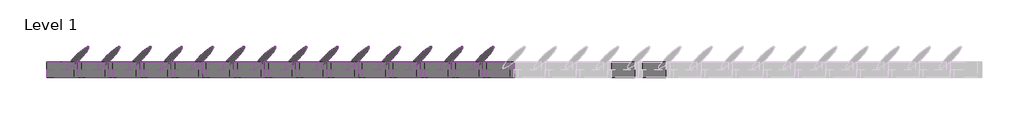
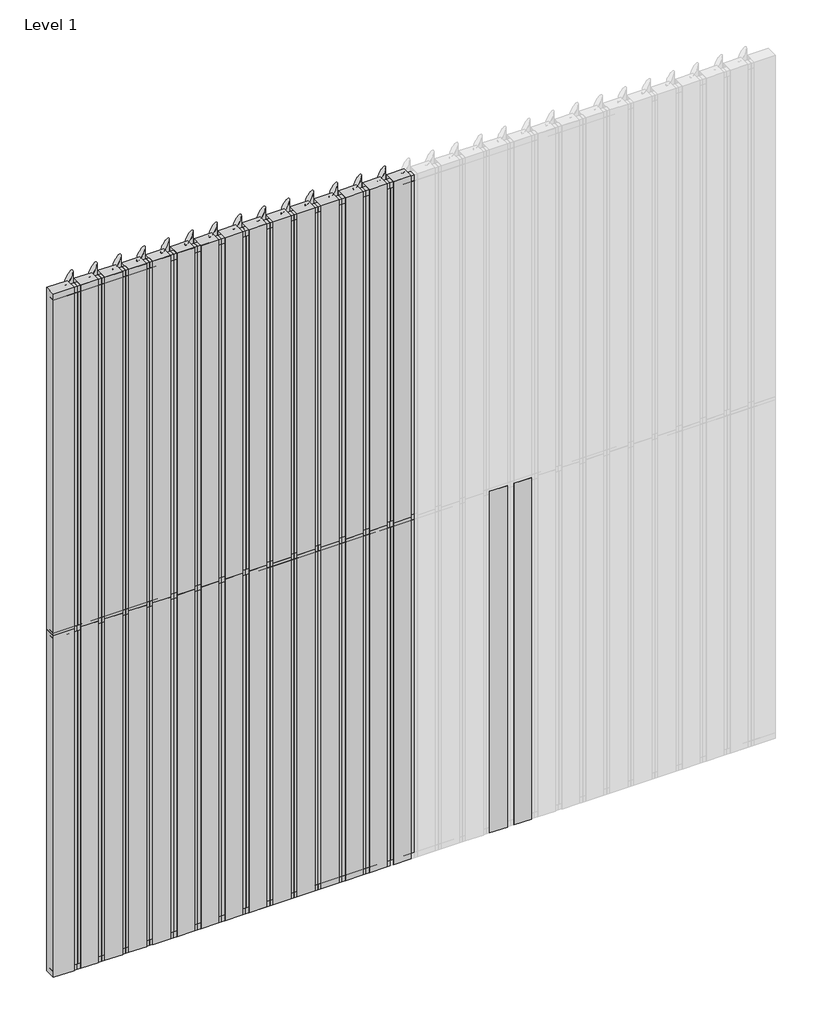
# One storey, part 1 of 2: 72 members, 62 plates.
"""IFC4 building model written with IfcOpenShell, lengths in millimetres."""

from ifc_helpers import new_model, si_unit, origin, place, context, project, spatial, transform, mapped, element, save
from components import rectangular_mullion_0c68277b, rectangular_mullion_a06afc58, rectangular_mullion_614df7cf, rectangular_mullion_7d91d70c, empty_system_panel_empty_aac18751, empty_system_panel_empty_ec074acd, empty_system_panel_empty_763ef950

model = new_model("IFC4")

# Units and contexts
model_context = context("Model", 3, world=origin())
ifc_project = project(units=[si_unit("LENGTHUNIT", "METRE", prefix="MILLI")], contexts=[model_context])

# Site, building, storey
site = spatial("IfcSite", under=ifc_project)
building = spatial("IfcBuilding", under=site)
storey = spatial("IfcBuildingStorey", under=building, Name="Level 1", Elevation=0.0)

# Members
placement = place(None, origin())
rectangular_mullion_shape = rectangular_mullion_0c68277b(model_context)
element("IfcMember", 1, ObjectType="Rectangular Mullion : RSen_21_CWM_blade - 200 ellips - 45°_gen_duco projects", at=placement, inside=storey, context=model_context, shape_type="MappedRepresentation", body=[
    mapped(rectangular_mullion_shape, transform((2800.0, 3000.0, 0.0), x_axis=(-1.0, 0.0, 0.0), y_axis=(0.0, 1.0, 0.0), z_axis=(0.0, 0.0, -1.0))),
])
element("IfcMember", 2, ObjectType="Rectangular Mullion : RSen_21_CWM_blade - 200 ellips - 45°_gen_duco projects", at=placement, inside=storey, context=model_context, shape_type="MappedRepresentation", body=[
    mapped(rectangular_mullion_shape, transform((2600.0, 3000.0, 0.0), x_axis=(-1.0, 0.0, 0.0), y_axis=(0.0, 1.0, 0.0), z_axis=(0.0, 0.0, -1.0))),
])
element("IfcMember", 3, ObjectType="Rectangular Mullion : RSen_21_CWM_blade - 200 ellips - 45°_gen_duco projects", at=placement, inside=storey, context=model_context, shape_type="MappedRepresentation", body=[
    mapped(rectangular_mullion_shape, transform((2400.0, 3000.0, 0.0), x_axis=(-1.0, 0.0, 0.0), y_axis=(0.0, 1.0, 0.0), z_axis=(0.0, 0.0, -1.0))),
])
element("IfcMember", 4, ObjectType="Rectangular Mullion : RSen_21_CWM_blade - 200 ellips - 45°_gen_duco projects", at=placement, inside=storey, context=model_context, shape_type="MappedRepresentation", body=[
    mapped(rectangular_mullion_shape, transform((2200.0, 3000.0, 0.0), x_axis=(-1.0, 0.0, 0.0), y_axis=(0.0, 1.0, 0.0), z_axis=(0.0, 0.0, -1.0))),
])
element("IfcMember", 5, ObjectType="Rectangular Mullion : RSen_21_CWM_blade - 200 ellips - 45°_gen_duco projects", at=placement, inside=storey, context=model_context, shape_type="MappedRepresentation", body=[
    mapped(rectangular_mullion_shape, transform((2000.0, 3000.0, 0.0), x_axis=(-1.0, 0.0, 0.0), y_axis=(0.0, 1.0, 0.0), z_axis=(0.0, 0.0, -1.0))),
])
element("IfcMember", 6, ObjectType="Rectangular Mullion : RSen_21_CWM_blade - 200 ellips - 45°_gen_duco projects", at=placement, inside=storey, context=model_context, shape_type="MappedRepresentation", body=[
    mapped(rectangular_mullion_shape, transform((1800.0, 3000.0, 0.0), x_axis=(-1.0, 0.0, 0.0), y_axis=(0.0, 1.0, 0.0), z_axis=(0.0, 0.0, -1.0))),
])
element("IfcMember", 7, ObjectType="Rectangular Mullion : RSen_21_CWM_blade - 200 ellips - 45°_gen_duco projects", at=placement, inside=storey, context=model_context, shape_type="MappedRepresentation", body=[
    mapped(rectangular_mullion_shape, transform((1600.0, 3000.0, 0.0), x_axis=(-1.0, 0.0, 0.0), y_axis=(0.0, 1.0, 0.0), z_axis=(0.0, 0.0, -1.0))),
])
element("IfcMember", 8, ObjectType="Rectangular Mullion : RSen_21_CWM_blade - 200 ellips - 45°_gen_duco projects", at=placement, inside=storey, context=model_context, shape_type="MappedRepresentation", body=[
    mapped(rectangular_mullion_shape, transform((1400.0, 3000.0, 0.0), x_axis=(-1.0, 0.0, 0.0), y_axis=(0.0, 1.0, 0.0), z_axis=(0.0, 0.0, -1.0))),
])
element("IfcMember", 9, ObjectType="Rectangular Mullion : RSen_21_CWM_blade - 200 ellips - 45°_gen_duco projects", at=placement, inside=storey, context=model_context, shape_type="MappedRepresentation", body=[
    mapped(rectangular_mullion_shape, transform((1200.0, 3000.0, 0.0), x_axis=(-1.0, 0.0, 0.0), y_axis=(0.0, 1.0, 0.0), z_axis=(0.0, 0.0, -1.0))),
])
element("IfcMember", 10, ObjectType="Rectangular Mullion : RSen_21_CWM_blade - 200 ellips - 45°_gen_duco projects", at=placement, inside=storey, context=model_context, shape_type="MappedRepresentation", body=[
    mapped(rectangular_mullion_shape, transform((1000.0, 3000.0, 0.0), x_axis=(-1.0, 0.0, 0.0), y_axis=(0.0, 1.0, 0.0), z_axis=(0.0, 0.0, -1.0))),
])
element("IfcMember", 11, ObjectType="Rectangular Mullion : RSen_21_CWM_blade - 200 ellips - 45°_gen_duco projects", at=placement, inside=storey, context=model_context, shape_type="MappedRepresentation", body=[
    mapped(rectangular_mullion_shape, transform((800.0, 3000.0, 0.0), x_axis=(-1.0, 0.0, 0.0), y_axis=(0.0, 1.0, 0.0), z_axis=(0.0, 0.0, -1.0))),
])
element("IfcMember", 12, ObjectType="Rectangular Mullion : RSen_21_CWM_blade - 200 ellips - 45°_gen_duco projects", at=placement, inside=storey, context=model_context, shape_type="MappedRepresentation", body=[
    mapped(rectangular_mullion_shape, transform((600.0, 3000.0, 0.0), x_axis=(-1.0, 0.0, 0.0), y_axis=(0.0, 1.0, 0.0), z_axis=(0.0, 0.0, -1.0))),
])
element("IfcMember", 13, ObjectType="Rectangular Mullion : RSen_21_CWM_blade - 200 ellips - 45°_gen_duco projects", at=placement, inside=storey, context=model_context, shape_type="MappedRepresentation", body=[
    mapped(rectangular_mullion_shape, transform((400.0, 3000.0, 0.0), x_axis=(-1.0, 0.0, 0.0), y_axis=(0.0, 1.0, 0.0), z_axis=(0.0, 0.0, -1.0))),
])
element("IfcMember", 14, ObjectType="Rectangular Mullion : RSen_21_CWM_blade - 200 ellips - 45°_gen_duco projects", at=placement, inside=storey, context=model_context, shape_type="MappedRepresentation", body=[
    mapped(rectangular_mullion_shape, transform((200.0, 3000.0, 0.0), x_axis=(-1.0, 0.0, 0.0), y_axis=(0.0, 1.0, 0.0), z_axis=(0.0, 0.0, -1.0))),
])
element("IfcMember", 15, ObjectType="Rectangular Mullion : RSen_21_CWM_blade - 200 ellips - 45°_gen_duco projects", at=placement, inside=storey, context=model_context, shape_type="MappedRepresentation", body=[
    mapped(rectangular_mullion_shape, transform((2800.0, 3000.0, 3000.0), x_axis=(-1.0, 0.0, 0.0), y_axis=(0.0, 1.0, 0.0), z_axis=(0.0, 0.0, -1.0))),
])
element("IfcMember", 16, ObjectType="Rectangular Mullion : RSen_21_CWM_blade - 200 ellips - 45°_gen_duco projects", at=placement, inside=storey, context=model_context, shape_type="MappedRepresentation", body=[
    mapped(rectangular_mullion_shape, transform((2600.0, 3000.0, 3000.0), x_axis=(-1.0, 0.0, 0.0), y_axis=(0.0, 1.0, 0.0), z_axis=(0.0, 0.0, -1.0))),
])
element("IfcMember", 17, ObjectType="Rectangular Mullion : RSen_21_CWM_blade - 200 ellips - 45°_gen_duco projects", at=placement, inside=storey, context=model_context, shape_type="MappedRepresentation", body=[
    mapped(rectangular_mullion_shape, transform((2400.0, 3000.0, 3000.0), x_axis=(-1.0, 0.0, 0.0), y_axis=(0.0, 1.0, 0.0), z_axis=(0.0, 0.0, -1.0))),
])
element("IfcMember", 18, ObjectType="Rectangular Mullion : RSen_21_CWM_blade - 200 ellips - 45°_gen_duco projects", at=placement, inside=storey, context=model_context, shape_type="MappedRepresentation", body=[
    mapped(rectangular_mullion_shape, transform((2200.0, 3000.0, 3000.0), x_axis=(-1.0, 0.0, 0.0), y_axis=(0.0, 1.0, 0.0), z_axis=(0.0, 0.0, -1.0))),
])
element("IfcMember", 19, ObjectType="Rectangular Mullion : RSen_21_CWM_blade - 200 ellips - 45°_gen_duco projects", at=placement, inside=storey, context=model_context, shape_type="MappedRepresentation", body=[
    mapped(rectangular_mullion_shape, transform((2000.0, 3000.0, 3000.0), x_axis=(-1.0, 0.0, 0.0), y_axis=(0.0, 1.0, 0.0), z_axis=(0.0, 0.0, -1.0))),
])
element("IfcMember", 20, ObjectType="Rectangular Mullion : RSen_21_CWM_blade - 200 ellips - 45°_gen_duco projects", at=placement, inside=storey, context=model_context, shape_type="MappedRepresentation", body=[
    mapped(rectangular_mullion_shape, transform((1800.0, 3000.0, 3000.0), x_axis=(-1.0, 0.0, 0.0), y_axis=(0.0, 1.0, 0.0), z_axis=(0.0, 0.0, -1.0))),
])
element("IfcMember", 21, ObjectType="Rectangular Mullion : RSen_21_CWM_blade - 200 ellips - 45°_gen_duco projects", at=placement, inside=storey, context=model_context, shape_type="MappedRepresentation", body=[
    mapped(rectangular_mullion_shape, transform((1600.0, 3000.0, 3000.0), x_axis=(-1.0, 0.0, 0.0), y_axis=(0.0, 1.0, 0.0), z_axis=(0.0, 0.0, -1.0))),
])
element("IfcMember", 22, ObjectType="Rectangular Mullion : RSen_21_CWM_blade - 200 ellips - 45°_gen_duco projects", at=placement, inside=storey, context=model_context, shape_type="MappedRepresentation", body=[
    mapped(rectangular_mullion_shape, transform((1400.0, 3000.0, 3000.0), x_axis=(-1.0, 0.0, 0.0), y_axis=(0.0, 1.0, 0.0), z_axis=(0.0, 0.0, -1.0))),
])
element("IfcMember", 23, ObjectType="Rectangular Mullion : RSen_21_CWM_blade - 200 ellips - 45°_gen_duco projects", at=placement, inside=storey, context=model_context, shape_type="MappedRepresentation", body=[
    mapped(rectangular_mullion_shape, transform((1200.0, 3000.0, 3000.0), x_axis=(-1.0, 0.0, 0.0), y_axis=(0.0, 1.0, 0.0), z_axis=(0.0, 0.0, -1.0))),
])
element("IfcMember", 24, ObjectType="Rectangular Mullion : RSen_21_CWM_blade - 200 ellips - 45°_gen_duco projects", at=placement, inside=storey, context=model_context, shape_type="MappedRepresentation", body=[
    mapped(rectangular_mullion_shape, transform((1000.0, 3000.0, 3000.0), x_axis=(-1.0, 0.0, 0.0), y_axis=(0.0, 1.0, 0.0), z_axis=(0.0, 0.0, -1.0))),
])
element("IfcMember", 25, ObjectType="Rectangular Mullion : RSen_21_CWM_blade - 200 ellips - 45°_gen_duco projects", at=placement, inside=storey, context=model_context, shape_type="MappedRepresentation", body=[
    mapped(rectangular_mullion_shape, transform((800.0, 3000.0, 3000.0), x_axis=(-1.0, 0.0, 0.0), y_axis=(0.0, 1.0, 0.0), z_axis=(0.0, 0.0, -1.0))),
])
element("IfcMember", 26, ObjectType="Rectangular Mullion : RSen_21_CWM_blade - 200 ellips - 45°_gen_duco projects", at=placement, inside=storey, context=model_context, shape_type="MappedRepresentation", body=[
    mapped(rectangular_mullion_shape, transform((600.0, 3000.0, 3000.0), x_axis=(-1.0, 0.0, 0.0), y_axis=(0.0, 1.0, 0.0), z_axis=(0.0, 0.0, -1.0))),
])
element("IfcMember", 27, ObjectType="Rectangular Mullion : RSen_21_CWM_blade - 200 ellips - 45°_gen_duco projects", at=placement, inside=storey, context=model_context, shape_type="MappedRepresentation", body=[
    mapped(rectangular_mullion_shape, transform((400.0, 3000.0, 3000.0), x_axis=(-1.0, 0.0, 0.0), y_axis=(0.0, 1.0, 0.0), z_axis=(0.0, 0.0, -1.0))),
])
element("IfcMember", 28, ObjectType="Rectangular Mullion : RSen_21_CWM_blade - 200 ellips - 45°_gen_duco projects", at=placement, inside=storey, context=model_context, shape_type="MappedRepresentation", body=[
    mapped(rectangular_mullion_shape, transform((200.0, 3000.0, 3000.0), x_axis=(-1.0, 0.0, 0.0), y_axis=(0.0, 1.0, 0.0), z_axis=(0.0, 0.0, -1.0))),
])
rectangular_mullion_2_shape = rectangular_mullion_a06afc58(model_context)
element("IfcMember", 29, ObjectType="Rectangular Mullion : RSen_21_CWM_support profile 50x50 - left_gen_duco projects", at=placement, inside=storey, context=model_context, shape_type="MappedRepresentation", body=[
    mapped(rectangular_mullion_2_shape, transform((0.0, 3000.0, 6000.0), x_axis=(0.0, 0.0, 1.0), y_axis=(0.0, 1.0, 0.0), z_axis=(-1.0, 0.0, 0.0))),
])
element("IfcMember", 30, ObjectType="Rectangular Mullion : RSen_21_CWM_support profile 50x50 - left_gen_duco projects", at=placement, inside=storey, context=model_context, shape_type="MappedRepresentation", body=[
    mapped(rectangular_mullion_2_shape, transform((2800.0, 3000.0, 6000.0), x_axis=(0.0, 0.0, 1.0), y_axis=(0.0, 1.0, 0.0), z_axis=(-1.0, 0.0, 0.0))),
])
element("IfcMember", 31, ObjectType="Rectangular Mullion : RSen_21_CWM_support profile 50x50 - left_gen_duco projects", at=placement, inside=storey, context=model_context, shape_type="MappedRepresentation", body=[
    mapped(rectangular_mullion_2_shape, transform((2600.0, 3000.0, 6000.0), x_axis=(0.0, 0.0, 1.0), y_axis=(0.0, 1.0, 0.0), z_axis=(-1.0, 0.0, 0.0))),
])
element("IfcMember", 32, ObjectType="Rectangular Mullion : RSen_21_CWM_support profile 50x50 - left_gen_duco projects", at=placement, inside=storey, context=model_context, shape_type="MappedRepresentation", body=[
    mapped(rectangular_mullion_2_shape, transform((2400.0, 3000.0, 6000.0), x_axis=(0.0, 0.0, 1.0), y_axis=(0.0, 1.0, 0.0), z_axis=(-1.0, 0.0, 0.0))),
])
element("IfcMember", 33, ObjectType="Rectangular Mullion : RSen_21_CWM_support profile 50x50 - left_gen_duco projects", at=placement, inside=storey, context=model_context, shape_type="MappedRepresentation", body=[
    mapped(rectangular_mullion_2_shape, transform((2200.0, 3000.0, 6000.0), x_axis=(0.0, 0.0, 1.0), y_axis=(0.0, 1.0, 0.0), z_axis=(-1.0, 0.0, 0.0))),
])
element("IfcMember", 34, ObjectType="Rectangular Mullion : RSen_21_CWM_support profile 50x50 - left_gen_duco projects", at=placement, inside=storey, context=model_context, shape_type="MappedRepresentation", body=[
    mapped(rectangular_mullion_2_shape, transform((2000.0, 3000.0, 6000.0), x_axis=(0.0, 0.0, 1.0), y_axis=(0.0, 1.0, 0.0), z_axis=(-1.0, 0.0, 0.0))),
])
element("IfcMember", 35, ObjectType="Rectangular Mullion : RSen_21_CWM_support profile 50x50 - left_gen_duco projects", at=placement, inside=storey, context=model_context, shape_type="MappedRepresentation", body=[
    mapped(rectangular_mullion_2_shape, transform((1800.0, 3000.0, 6000.0), x_axis=(0.0, 0.0, 1.0), y_axis=(0.0, 1.0, 0.0), z_axis=(-1.0, 0.0, 0.0))),
])
element("IfcMember", 36, ObjectType="Rectangular Mullion : RSen_21_CWM_support profile 50x50 - left_gen_duco projects", at=placement, inside=storey, context=model_context, shape_type="MappedRepresentation", body=[
    mapped(rectangular_mullion_2_shape, transform((1600.0, 3000.0, 6000.0), x_axis=(0.0, 0.0, 1.0), y_axis=(0.0, 1.0, 0.0), z_axis=(-1.0, 0.0, 0.0))),
])
element("IfcMember", 37, ObjectType="Rectangular Mullion : RSen_21_CWM_support profile 50x50 - left_gen_duco projects", at=placement, inside=storey, context=model_context, shape_type="MappedRepresentation", body=[
    mapped(rectangular_mullion_2_shape, transform((1400.0, 3000.0, 6000.0), x_axis=(0.0, 0.0, 1.0), y_axis=(0.0, 1.0, 0.0), z_axis=(-1.0, 0.0, 0.0))),
])
element("IfcMember", 38, ObjectType="Rectangular Mullion : RSen_21_CWM_support profile 50x50 - left_gen_duco projects", at=placement, inside=storey, context=model_context, shape_type="MappedRepresentation", body=[
    mapped(rectangular_mullion_2_shape, transform((1200.0, 3000.0, 6000.0), x_axis=(0.0, 0.0, 1.0), y_axis=(0.0, 1.0, 0.0), z_axis=(-1.0, 0.0, 0.0))),
])
element("IfcMember", 39, ObjectType="Rectangular Mullion : RSen_21_CWM_support profile 50x50 - left_gen_duco projects", at=placement, inside=storey, context=model_context, shape_type="MappedRepresentation", body=[
    mapped(rectangular_mullion_2_shape, transform((1000.0, 3000.0, 6000.0), x_axis=(0.0, 0.0, 1.0), y_axis=(0.0, 1.0, 0.0), z_axis=(-1.0, 0.0, 0.0))),
])
element("IfcMember", 40, ObjectType="Rectangular Mullion : RSen_21_CWM_support profile 50x50 - left_gen_duco projects", at=placement, inside=storey, context=model_context, shape_type="MappedRepresentation", body=[
    mapped(rectangular_mullion_2_shape, transform((800.0, 3000.0, 6000.0), x_axis=(0.0, 0.0, 1.0), y_axis=(0.0, 1.0, 0.0), z_axis=(-1.0, 0.0, 0.0))),
])
element("IfcMember", 41, ObjectType="Rectangular Mullion : RSen_21_CWM_support profile 50x50 - left_gen_duco projects", at=placement, inside=storey, context=model_context, shape_type="MappedRepresentation", body=[
    mapped(rectangular_mullion_2_shape, transform((600.0, 3000.0, 6000.0), x_axis=(0.0, 0.0, 1.0), y_axis=(0.0, 1.0, 0.0), z_axis=(-1.0, 0.0, 0.0))),
])
element("IfcMember", 42, ObjectType="Rectangular Mullion : RSen_21_CWM_support profile 50x50 - left_gen_duco projects", at=placement, inside=storey, context=model_context, shape_type="MappedRepresentation", body=[
    mapped(rectangular_mullion_2_shape, transform((400.0, 3000.0, 6000.0), x_axis=(0.0, 0.0, 1.0), y_axis=(0.0, 1.0, 0.0), z_axis=(-1.0, 0.0, 0.0))),
])
element("IfcMember", 43, ObjectType="Rectangular Mullion : RSen_21_CWM_support profile 50x50 - left_gen_duco projects", at=placement, inside=storey, context=model_context, shape_type="MappedRepresentation", body=[
    mapped(rectangular_mullion_2_shape, transform((200.0, 3000.0, 6000.0), x_axis=(0.0, 0.0, 1.0), y_axis=(0.0, 1.0, 0.0), z_axis=(-1.0, 0.0, 0.0))),
])
rectangular_mullion_3_shape = rectangular_mullion_614df7cf(model_context)
element("IfcMember", 44, ObjectType="Rectangular Mullion : RSen_21_CWM_support profile 50x50 - right_gen_duco projects", at=placement, inside=storey, context=model_context, shape_type="MappedRepresentation", body=[
    mapped(rectangular_mullion_3_shape, transform((2800.0, 3000.0, 0.0), x_axis=(0.0, 0.0, -1.0), y_axis=(0.0, 1.0, 0.0), z_axis=(1.0, 0.0, 0.0))),
])
element("IfcMember", 45, ObjectType="Rectangular Mullion : RSen_21_CWM_support profile 50x50 - right_gen_duco projects", at=placement, inside=storey, context=model_context, shape_type="MappedRepresentation", body=[
    mapped(rectangular_mullion_3_shape, transform((2600.0, 3000.0, 0.0), x_axis=(0.0, 0.0, -1.0), y_axis=(0.0, 1.0, 0.0), z_axis=(1.0, 0.0, 0.0))),
])
element("IfcMember", 46, ObjectType="Rectangular Mullion : RSen_21_CWM_support profile 50x50 - right_gen_duco projects", at=placement, inside=storey, context=model_context, shape_type="MappedRepresentation", body=[
    mapped(rectangular_mullion_3_shape, transform((2400.0, 3000.0, 0.0), x_axis=(0.0, 0.0, -1.0), y_axis=(0.0, 1.0, 0.0), z_axis=(1.0, 0.0, 0.0))),
])
element("IfcMember", 47, ObjectType="Rectangular Mullion : RSen_21_CWM_support profile 50x50 - right_gen_duco projects", at=placement, inside=storey, context=model_context, shape_type="MappedRepresentation", body=[
    mapped(rectangular_mullion_3_shape, transform((2200.0, 3000.0, 0.0), x_axis=(0.0, 0.0, -1.0), y_axis=(0.0, 1.0, 0.0), z_axis=(1.0, 0.0, 0.0))),
])
element("IfcMember", 48, ObjectType="Rectangular Mullion : RSen_21_CWM_support profile 50x50 - right_gen_duco projects", at=placement, inside=storey, context=model_context, shape_type="MappedRepresentation", body=[
    mapped(rectangular_mullion_3_shape, transform((2000.0, 3000.0, 0.0), x_axis=(0.0, 0.0, -1.0), y_axis=(0.0, 1.0, 0.0), z_axis=(1.0, 0.0, 0.0))),
])
element("IfcMember", 49, ObjectType="Rectangular Mullion : RSen_21_CWM_support profile 50x50 - right_gen_duco projects", at=placement, inside=storey, context=model_context, shape_type="MappedRepresentation", body=[
    mapped(rectangular_mullion_3_shape, transform((1800.0, 3000.0, 0.0), x_axis=(0.0, 0.0, -1.0), y_axis=(0.0, 1.0, 0.0), z_axis=(1.0, 0.0, 0.0))),
])
element("IfcMember", 50, ObjectType="Rectangular Mullion : RSen_21_CWM_support profile 50x50 - right_gen_duco projects", at=placement, inside=storey, context=model_context, shape_type="MappedRepresentation", body=[
    mapped(rectangular_mullion_3_shape, transform((1600.0, 3000.0, 0.0), x_axis=(0.0, 0.0, -1.0), y_axis=(0.0, 1.0, 0.0), z_axis=(1.0, 0.0, 0.0))),
])
element("IfcMember", 51, ObjectType="Rectangular Mullion : RSen_21_CWM_support profile 50x50 - right_gen_duco projects", at=placement, inside=storey, context=model_context, shape_type="MappedRepresentation", body=[
    mapped(rectangular_mullion_3_shape, transform((1400.0, 3000.0, 0.0), x_axis=(0.0, 0.0, -1.0), y_axis=(0.0, 1.0, 0.0), z_axis=(1.0, 0.0, 0.0))),
])
element("IfcMember", 52, ObjectType="Rectangular Mullion : RSen_21_CWM_support profile 50x50 - right_gen_duco projects", at=placement, inside=storey, context=model_context, shape_type="MappedRepresentation", body=[
    mapped(rectangular_mullion_3_shape, transform((1200.0, 3000.0, 0.0), x_axis=(0.0, 0.0, -1.0), y_axis=(0.0, 1.0, 0.0), z_axis=(1.0, 0.0, 0.0))),
])
element("IfcMember", 53, ObjectType="Rectangular Mullion : RSen_21_CWM_support profile 50x50 - right_gen_duco projects", at=placement, inside=storey, context=model_context, shape_type="MappedRepresentation", body=[
    mapped(rectangular_mullion_3_shape, transform((1000.0, 3000.0, 0.0), x_axis=(0.0, 0.0, -1.0), y_axis=(0.0, 1.0, 0.0), z_axis=(1.0, 0.0, 0.0))),
])
element("IfcMember", 54, ObjectType="Rectangular Mullion : RSen_21_CWM_support profile 50x50 - right_gen_duco projects", at=placement, inside=storey, context=model_context, shape_type="MappedRepresentation", body=[
    mapped(rectangular_mullion_3_shape, transform((800.0, 3000.0, 0.0), x_axis=(0.0, 0.0, -1.0), y_axis=(0.0, 1.0, 0.0), z_axis=(1.0, 0.0, 0.0))),
])
element("IfcMember", 55, ObjectType="Rectangular Mullion : RSen_21_CWM_support profile 50x50 - right_gen_duco projects", at=placement, inside=storey, context=model_context, shape_type="MappedRepresentation", body=[
    mapped(rectangular_mullion_3_shape, transform((600.0, 3000.0, 0.0), x_axis=(0.0, 0.0, -1.0), y_axis=(0.0, 1.0, 0.0), z_axis=(1.0, 0.0, 0.0))),
])
element("IfcMember", 56, ObjectType="Rectangular Mullion : RSen_21_CWM_support profile 50x50 - right_gen_duco projects", at=placement, inside=storey, context=model_context, shape_type="MappedRepresentation", body=[
    mapped(rectangular_mullion_3_shape, transform((400.0, 3000.0, 0.0), x_axis=(0.0, 0.0, -1.0), y_axis=(0.0, 1.0, 0.0), z_axis=(1.0, 0.0, 0.0))),
])
element("IfcMember", 57, ObjectType="Rectangular Mullion : RSen_21_CWM_support profile 50x50 - right_gen_duco projects", at=placement, inside=storey, context=model_context, shape_type="MappedRepresentation", body=[
    mapped(rectangular_mullion_3_shape, transform((200.0, 3000.0, 0.0), x_axis=(0.0, 0.0, -1.0), y_axis=(0.0, 1.0, 0.0), z_axis=(1.0, 0.0, 0.0))),
])
rectangular_mullion_4_shape = rectangular_mullion_7d91d70c(model_context)
element("IfcMember", 58, ObjectType="Rectangular Mullion : RSen_21_CWM_support profile 50x50_gen_duco projects", at=placement, inside=storey, context=model_context, shape_type="MappedRepresentation", body=[
    mapped(rectangular_mullion_4_shape, transform((2800.0, 3000.0, 3000.0), x_axis=(0.0, 0.0, 1.0), y_axis=(0.0, 1.0, 0.0), z_axis=(-1.0, 0.0, 0.0))),
])
element("IfcMember", 59, ObjectType="Rectangular Mullion : RSen_21_CWM_support profile 50x50_gen_duco projects", at=placement, inside=storey, context=model_context, shape_type="MappedRepresentation", body=[
    mapped(rectangular_mullion_4_shape, transform((2600.0, 3000.0, 3000.0), x_axis=(0.0, 0.0, 1.0), y_axis=(0.0, 1.0, 0.0), z_axis=(-1.0, 0.0, 0.0))),
])
element("IfcMember", 60, ObjectType="Rectangular Mullion : RSen_21_CWM_support profile 50x50_gen_duco projects", at=placement, inside=storey, context=model_context, shape_type="MappedRepresentation", body=[
    mapped(rectangular_mullion_4_shape, transform((2400.0, 3000.0, 3000.0), x_axis=(0.0, 0.0, 1.0), y_axis=(0.0, 1.0, 0.0), z_axis=(-1.0, 0.0, 0.0))),
])
element("IfcMember", 61, ObjectType="Rectangular Mullion : RSen_21_CWM_support profile 50x50_gen_duco projects", at=placement, inside=storey, context=model_context, shape_type="MappedRepresentation", body=[
    mapped(rectangular_mullion_4_shape, transform((2200.0, 3000.0, 3000.0), x_axis=(0.0, 0.0, 1.0), y_axis=(0.0, 1.0, 0.0), z_axis=(-1.0, 0.0, 0.0))),
])
element("IfcMember", 62, ObjectType="Rectangular Mullion : RSen_21_CWM_support profile 50x50_gen_duco projects", at=placement, inside=storey, context=model_context, shape_type="MappedRepresentation", body=[
    mapped(rectangular_mullion_4_shape, transform((2000.0, 3000.0, 3000.0), x_axis=(0.0, 0.0, 1.0), y_axis=(0.0, 1.0, 0.0), z_axis=(-1.0, 0.0, 0.0))),
])
element("IfcMember", 63, ObjectType="Rectangular Mullion : RSen_21_CWM_support profile 50x50_gen_duco projects", at=placement, inside=storey, context=model_context, shape_type="MappedRepresentation", body=[
    mapped(rectangular_mullion_4_shape, transform((1800.0, 3000.0, 3000.0), x_axis=(0.0, 0.0, 1.0), y_axis=(0.0, 1.0, 0.0), z_axis=(-1.0, 0.0, 0.0))),
])
element("IfcMember", 64, ObjectType="Rectangular Mullion : RSen_21_CWM_support profile 50x50_gen_duco projects", at=placement, inside=storey, context=model_context, shape_type="MappedRepresentation", body=[
    mapped(rectangular_mullion_4_shape, transform((1600.0, 3000.0, 3000.0), x_axis=(0.0, 0.0, 1.0), y_axis=(0.0, 1.0, 0.0), z_axis=(-1.0, 0.0, 0.0))),
])
element("IfcMember", 65, ObjectType="Rectangular Mullion : RSen_21_CWM_support profile 50x50_gen_duco projects", at=placement, inside=storey, context=model_context, shape_type="MappedRepresentation", body=[
    mapped(rectangular_mullion_4_shape, transform((1400.0, 3000.0, 3000.0), x_axis=(0.0, 0.0, 1.0), y_axis=(0.0, 1.0, 0.0), z_axis=(-1.0, 0.0, 0.0))),
])
element("IfcMember", 66, ObjectType="Rectangular Mullion : RSen_21_CWM_support profile 50x50_gen_duco projects", at=placement, inside=storey, context=model_context, shape_type="MappedRepresentation", body=[
    mapped(rectangular_mullion_4_shape, transform((1200.0, 3000.0, 3000.0), x_axis=(0.0, 0.0, 1.0), y_axis=(0.0, 1.0, 0.0), z_axis=(-1.0, 0.0, 0.0))),
])
element("IfcMember", 67, ObjectType="Rectangular Mullion : RSen_21_CWM_support profile 50x50_gen_duco projects", at=placement, inside=storey, context=model_context, shape_type="MappedRepresentation", body=[
    mapped(rectangular_mullion_4_shape, transform((1000.0, 3000.0, 3000.0), x_axis=(0.0, 0.0, 1.0), y_axis=(0.0, 1.0, 0.0), z_axis=(-1.0, 0.0, 0.0))),
])
element("IfcMember", 68, ObjectType="Rectangular Mullion : RSen_21_CWM_support profile 50x50_gen_duco projects", at=placement, inside=storey, context=model_context, shape_type="MappedRepresentation", body=[
    mapped(rectangular_mullion_4_shape, transform((800.0, 3000.0, 3000.0), x_axis=(0.0, 0.0, 1.0), y_axis=(0.0, 1.0, 0.0), z_axis=(-1.0, 0.0, 0.0))),
])
element("IfcMember", 69, ObjectType="Rectangular Mullion : RSen_21_CWM_support profile 50x50_gen_duco projects", at=placement, inside=storey, context=model_context, shape_type="MappedRepresentation", body=[
    mapped(rectangular_mullion_4_shape, transform((600.0, 3000.0, 3000.0), x_axis=(0.0, 0.0, 1.0), y_axis=(0.0, 1.0, 0.0), z_axis=(-1.0, 0.0, 0.0))),
])
element("IfcMember", 70, ObjectType="Rectangular Mullion : RSen_21_CWM_support profile 50x50_gen_duco projects", at=placement, inside=storey, context=model_context, shape_type="MappedRepresentation", body=[
    mapped(rectangular_mullion_4_shape, transform((400.0, 3000.0, 3000.0), x_axis=(0.0, 0.0, 1.0), y_axis=(0.0, 1.0, 0.0), z_axis=(-1.0, 0.0, 0.0))),
])
element("IfcMember", 71, ObjectType="Rectangular Mullion : RSen_21_CWM_support profile 50x50_gen_duco projects", at=placement, inside=storey, context=model_context, shape_type="MappedRepresentation", body=[
    mapped(rectangular_mullion_4_shape, transform((200.0, 3000.0, 3000.0), x_axis=(0.0, 0.0, 1.0), y_axis=(0.0, 1.0, 0.0), z_axis=(-1.0, 0.0, 0.0))),
])
element("IfcMember", 72, ObjectType="Rectangular Mullion : RSen_21_CWM_support profile 50x50_gen_duco projects", at=placement, inside=storey, context=model_context, shape_type="MappedRepresentation", body=[
    mapped(rectangular_mullion_4_shape, transform((0.0, 3000.0, 3000.0), x_axis=(0.0, 0.0, 1.0), y_axis=(0.0, 1.0, 0.0), z_axis=(-1.0, 0.0, 0.0))),
])

# Plates
empty_system_panel_empty_shape = empty_system_panel_empty_aac18751(model_context)
element("IfcPlate", 73, ObjectType="Empty System Panel : Empty", at=placement, inside=storey, context=model_context, shape_type="MappedRepresentation", body=[
    mapped(empty_system_panel_empty_shape, transform((86.9185245, 3000.0, 0.0), x_axis=(-1.0, 0.0, 0.0), y_axis=(0.0, -1.0, 0.0), z_axis=(0.0, 0.0, 1.0))),
])
element("IfcPlate", 74, ObjectType="Empty System Panel : Empty", at=placement, inside=storey, context=model_context, shape_type="MappedRepresentation", body=[
    mapped(empty_system_panel_empty_shape, transform((86.9185245, 3000.0, 3000.0), x_axis=(-1.0, 0.0, 0.0), y_axis=(0.0, -1.0, 0.0), z_axis=(0.0, 0.0, 1.0))),
])
empty_system_panel_empty_2_shape = empty_system_panel_empty_ec074acd(model_context)
element("IfcPlate", 75, ObjectType="Empty System Panel : Empty", at=placement, inside=storey, context=model_context, shape_type="MappedRepresentation", body=[
    mapped(empty_system_panel_empty_2_shape, transform((3900.0, 3000.0, 0.0), x_axis=(-1.0, 0.0, 0.0), y_axis=(0.0, -1.0, 0.0), z_axis=(0.0, 0.0, 1.0))),
])
element("IfcPlate", 76, ObjectType="Empty System Panel : Empty", at=placement, inside=storey, context=model_context, shape_type="MappedRepresentation", body=[
    mapped(empty_system_panel_empty_2_shape, transform((3700.0, 3000.0, 0.0), x_axis=(-1.0, 0.0, 0.0), y_axis=(0.0, -1.0, 0.0), z_axis=(0.0, 0.0, 1.0))),
])
element("IfcPlate", 77, ObjectType="Empty System Panel : Empty", at=placement, inside=storey, context=model_context, shape_type="MappedRepresentation", body=[
    mapped(empty_system_panel_empty_2_shape, transform((2900.0, 3000.0, 0.0), x_axis=(-1.0, 0.0, 0.0), y_axis=(0.0, -1.0, 0.0), z_axis=(0.0, 0.0, 1.0))),
])
element("IfcPlate", 78, ObjectType="Empty System Panel : Empty", at=placement, inside=storey, context=model_context, shape_type="MappedRepresentation", body=[
    mapped(empty_system_panel_empty_2_shape, transform((2700.0, 3000.0, 0.0), x_axis=(-1.0, 0.0, 0.0), y_axis=(0.0, -1.0, 0.0), z_axis=(0.0, 0.0, 1.0))),
])
element("IfcPlate", 79, ObjectType="Empty System Panel : Empty", at=placement, inside=storey, context=model_context, shape_type="MappedRepresentation", body=[
    mapped(empty_system_panel_empty_2_shape, transform((2500.0, 3000.0, 0.0), x_axis=(-1.0, 0.0, 0.0), y_axis=(0.0, -1.0, 0.0), z_axis=(0.0, 0.0, 1.0))),
])
element("IfcPlate", 80, ObjectType="Empty System Panel : Empty", at=placement, inside=storey, context=model_context, shape_type="MappedRepresentation", body=[
    mapped(empty_system_panel_empty_2_shape, transform((2300.0, 3000.0, 0.0), x_axis=(-1.0, 0.0, 0.0), y_axis=(0.0, -1.0, 0.0), z_axis=(0.0, 0.0, 1.0))),
])
element("IfcPlate", 81, ObjectType="Empty System Panel : Empty", at=placement, inside=storey, context=model_context, shape_type="MappedRepresentation", body=[
    mapped(empty_system_panel_empty_2_shape, transform((2100.0, 3000.0, 0.0), x_axis=(-1.0, 0.0, 0.0), y_axis=(0.0, -1.0, 0.0), z_axis=(0.0, 0.0, 1.0))),
])
element("IfcPlate", 82, ObjectType="Empty System Panel : Empty", at=placement, inside=storey, context=model_context, shape_type="MappedRepresentation", body=[
    mapped(empty_system_panel_empty_2_shape, transform((1900.0, 3000.0, 0.0), x_axis=(-1.0, 0.0, 0.0), y_axis=(0.0, -1.0, 0.0), z_axis=(0.0, 0.0, 1.0))),
])
element("IfcPlate", 83, ObjectType="Empty System Panel : Empty", at=placement, inside=storey, context=model_context, shape_type="MappedRepresentation", body=[
    mapped(empty_system_panel_empty_2_shape, transform((1700.0, 3000.0, 0.0), x_axis=(-1.0, 0.0, 0.0), y_axis=(0.0, -1.0, 0.0), z_axis=(0.0, 0.0, 1.0))),
])
element("IfcPlate", 84, ObjectType="Empty System Panel : Empty", at=placement, inside=storey, context=model_context, shape_type="MappedRepresentation", body=[
    mapped(empty_system_panel_empty_2_shape, transform((1500.0, 3000.0, 0.0), x_axis=(-1.0, 0.0, 0.0), y_axis=(0.0, -1.0, 0.0), z_axis=(0.0, 0.0, 1.0))),
])
element("IfcPlate", 85, ObjectType="Empty System Panel : Empty", at=placement, inside=storey, context=model_context, shape_type="MappedRepresentation", body=[
    mapped(empty_system_panel_empty_2_shape, transform((1300.0, 3000.0, 0.0), x_axis=(-1.0, 0.0, 0.0), y_axis=(0.0, -1.0, 0.0), z_axis=(0.0, 0.0, 1.0))),
])
element("IfcPlate", 86, ObjectType="Empty System Panel : Empty", at=placement, inside=storey, context=model_context, shape_type="MappedRepresentation", body=[
    mapped(empty_system_panel_empty_2_shape, transform((1100.0, 3000.0, 0.0), x_axis=(-1.0, 0.0, 0.0), y_axis=(0.0, -1.0, 0.0), z_axis=(0.0, 0.0, 1.0))),
])
element("IfcPlate", 87, ObjectType="Empty System Panel : Empty", at=placement, inside=storey, context=model_context, shape_type="MappedRepresentation", body=[
    mapped(empty_system_panel_empty_2_shape, transform((900.0, 3000.0, 0.0), x_axis=(-1.0, 0.0, 0.0), y_axis=(0.0, -1.0, 0.0), z_axis=(0.0, 0.0, 1.0))),
])
element("IfcPlate", 88, ObjectType="Empty System Panel : Empty", at=placement, inside=storey, context=model_context, shape_type="MappedRepresentation", body=[
    mapped(empty_system_panel_empty_2_shape, transform((700.0, 3000.0, 0.0), x_axis=(-1.0, 0.0, 0.0), y_axis=(0.0, -1.0, 0.0), z_axis=(0.0, 0.0, 1.0))),
])
element("IfcPlate", 89, ObjectType="Empty System Panel : Empty", at=placement, inside=storey, context=model_context, shape_type="MappedRepresentation", body=[
    mapped(empty_system_panel_empty_2_shape, transform((500.0, 3000.0, 0.0), x_axis=(-1.0, 0.0, 0.0), y_axis=(0.0, -1.0, 0.0), z_axis=(0.0, 0.0, 1.0))),
])
element("IfcPlate", 90, ObjectType="Empty System Panel : Empty", at=placement, inside=storey, context=model_context, shape_type="MappedRepresentation", body=[
    mapped(empty_system_panel_empty_2_shape, transform((300.0, 3000.0, 0.0), x_axis=(-1.0, 0.0, 0.0), y_axis=(0.0, -1.0, 0.0), z_axis=(0.0, 0.0, 1.0))),
])
element("IfcPlate", 91, ObjectType="Empty System Panel : Empty", at=placement, inside=storey, context=model_context, shape_type="MappedRepresentation", body=[
    mapped(empty_system_panel_empty_2_shape, transform((2900.0, 3000.0, 3000.0), x_axis=(-1.0, 0.0, 0.0), y_axis=(0.0, -1.0, 0.0), z_axis=(0.0, 0.0, 1.0))),
])
element("IfcPlate", 92, ObjectType="Empty System Panel : Empty", at=placement, inside=storey, context=model_context, shape_type="MappedRepresentation", body=[
    mapped(empty_system_panel_empty_2_shape, transform((2700.0, 3000.0, 3000.0), x_axis=(-1.0, 0.0, 0.0), y_axis=(0.0, -1.0, 0.0), z_axis=(0.0, 0.0, 1.0))),
])
element("IfcPlate", 93, ObjectType="Empty System Panel : Empty", at=placement, inside=storey, context=model_context, shape_type="MappedRepresentation", body=[
    mapped(empty_system_panel_empty_2_shape, transform((2500.0, 3000.0, 3000.0), x_axis=(-1.0, 0.0, 0.0), y_axis=(0.0, -1.0, 0.0), z_axis=(0.0, 0.0, 1.0))),
])
element("IfcPlate", 94, ObjectType="Empty System Panel : Empty", at=placement, inside=storey, context=model_context, shape_type="MappedRepresentation", body=[
    mapped(empty_system_panel_empty_2_shape, transform((2300.0, 3000.0, 3000.0), x_axis=(-1.0, 0.0, 0.0), y_axis=(0.0, -1.0, 0.0), z_axis=(0.0, 0.0, 1.0))),
])
element("IfcPlate", 95, ObjectType="Empty System Panel : Empty", at=placement, inside=storey, context=model_context, shape_type="MappedRepresentation", body=[
    mapped(empty_system_panel_empty_2_shape, transform((2100.0, 3000.0, 3000.0), x_axis=(-1.0, 0.0, 0.0), y_axis=(0.0, -1.0, 0.0), z_axis=(0.0, 0.0, 1.0))),
])
element("IfcPlate", 96, ObjectType="Empty System Panel : Empty", at=placement, inside=storey, context=model_context, shape_type="MappedRepresentation", body=[
    mapped(empty_system_panel_empty_2_shape, transform((1900.0, 3000.0, 3000.0), x_axis=(-1.0, 0.0, 0.0), y_axis=(0.0, -1.0, 0.0), z_axis=(0.0, 0.0, 1.0))),
])
element("IfcPlate", 97, ObjectType="Empty System Panel : Empty", at=placement, inside=storey, context=model_context, shape_type="MappedRepresentation", body=[
    mapped(empty_system_panel_empty_2_shape, transform((1700.0, 3000.0, 3000.0), x_axis=(-1.0, 0.0, 0.0), y_axis=(0.0, -1.0, 0.0), z_axis=(0.0, 0.0, 1.0))),
])
element("IfcPlate", 98, ObjectType="Empty System Panel : Empty", at=placement, inside=storey, context=model_context, shape_type="MappedRepresentation", body=[
    mapped(empty_system_panel_empty_2_shape, transform((1500.0, 3000.0, 3000.0), x_axis=(-1.0, 0.0, 0.0), y_axis=(0.0, -1.0, 0.0), z_axis=(0.0, 0.0, 1.0))),
])
element("IfcPlate", 99, ObjectType="Empty System Panel : Empty", at=placement, inside=storey, context=model_context, shape_type="MappedRepresentation", body=[
    mapped(empty_system_panel_empty_2_shape, transform((1300.0, 3000.0, 3000.0), x_axis=(-1.0, 0.0, 0.0), y_axis=(0.0, -1.0, 0.0), z_axis=(0.0, 0.0, 1.0))),
])
element("IfcPlate", 100, ObjectType="Empty System Panel : Empty", at=placement, inside=storey, context=model_context, shape_type="MappedRepresentation", body=[
    mapped(empty_system_panel_empty_2_shape, transform((1100.0, 3000.0, 3000.0), x_axis=(-1.0, 0.0, 0.0), y_axis=(0.0, -1.0, 0.0), z_axis=(0.0, 0.0, 1.0))),
])
element("IfcPlate", 101, ObjectType="Empty System Panel : Empty", at=placement, inside=storey, context=model_context, shape_type="MappedRepresentation", body=[
    mapped(empty_system_panel_empty_2_shape, transform((900.0, 3000.0, 3000.0), x_axis=(-1.0, 0.0, 0.0), y_axis=(0.0, -1.0, 0.0), z_axis=(0.0, 0.0, 1.0))),
])
element("IfcPlate", 102, ObjectType="Empty System Panel : Empty", at=placement, inside=storey, context=model_context, shape_type="MappedRepresentation", body=[
    mapped(empty_system_panel_empty_2_shape, transform((700.0, 3000.0, 3000.0), x_axis=(-1.0, 0.0, 0.0), y_axis=(0.0, -1.0, 0.0), z_axis=(0.0, 0.0, 1.0))),
])
element("IfcPlate", 103, ObjectType="Empty System Panel : Empty", at=placement, inside=storey, context=model_context, shape_type="MappedRepresentation", body=[
    mapped(empty_system_panel_empty_2_shape, transform((500.0, 3000.0, 3000.0), x_axis=(-1.0, 0.0, 0.0), y_axis=(0.0, -1.0, 0.0), z_axis=(0.0, 0.0, 1.0))),
])
element("IfcPlate", 104, ObjectType="Empty System Panel : Empty", at=placement, inside=storey, context=model_context, shape_type="MappedRepresentation", body=[
    mapped(empty_system_panel_empty_2_shape, transform((300.0, 3000.0, 3000.0), x_axis=(-1.0, 0.0, 0.0), y_axis=(0.0, -1.0, 0.0), z_axis=(0.0, 0.0, 1.0))),
])
empty_system_panel_empty_3_shape = empty_system_panel_empty_763ef950(model_context)
element("IfcPlate", 105, ObjectType="Empty System Panel : Empty", at=placement, inside=storey, context=model_context, shape_type="MappedRepresentation", body=[
    mapped(empty_system_panel_empty_3_shape, transform((2900.0, 3000.0, 50.0), x_axis=(-1.0, 0.0, 0.0), y_axis=(0.0, -1.0, 0.0), z_axis=(0.0, 0.0, 1.0))),
])
element("IfcPlate", 106, ObjectType="Empty System Panel : Empty", at=placement, inside=storey, context=model_context, shape_type="MappedRepresentation", body=[
    mapped(empty_system_panel_empty_3_shape, transform((2700.0, 3000.0, 50.0), x_axis=(-1.0, 0.0, 0.0), y_axis=(0.0, -1.0, 0.0), z_axis=(0.0, 0.0, 1.0))),
])
element("IfcPlate", 107, ObjectType="Empty System Panel : Empty", at=placement, inside=storey, context=model_context, shape_type="MappedRepresentation", body=[
    mapped(empty_system_panel_empty_3_shape, transform((2500.0, 3000.0, 50.0), x_axis=(-1.0, 0.0, 0.0), y_axis=(0.0, -1.0, 0.0), z_axis=(0.0, 0.0, 1.0))),
])
element("IfcPlate", 108, ObjectType="Empty System Panel : Empty", at=placement, inside=storey, context=model_context, shape_type="MappedRepresentation", body=[
    mapped(empty_system_panel_empty_3_shape, transform((2300.0, 3000.0, 50.0), x_axis=(-1.0, 0.0, 0.0), y_axis=(0.0, -1.0, 0.0), z_axis=(0.0, 0.0, 1.0))),
])
element("IfcPlate", 109, ObjectType="Empty System Panel : Empty", at=placement, inside=storey, context=model_context, shape_type="MappedRepresentation", body=[
    mapped(empty_system_panel_empty_3_shape, transform((2100.0, 3000.0, 50.0), x_axis=(-1.0, 0.0, 0.0), y_axis=(0.0, -1.0, 0.0), z_axis=(0.0, 0.0, 1.0))),
])
element("IfcPlate", 110, ObjectType="Empty System Panel : Empty", at=placement, inside=storey, context=model_context, shape_type="MappedRepresentation", body=[
    mapped(empty_system_panel_empty_3_shape, transform((1900.0, 3000.0, 50.0), x_axis=(-1.0, 0.0, 0.0), y_axis=(0.0, -1.0, 0.0), z_axis=(0.0, 0.0, 1.0))),
])
element("IfcPlate", 111, ObjectType="Empty System Panel : Empty", at=placement, inside=storey, context=model_context, shape_type="MappedRepresentation", body=[
    mapped(empty_system_panel_empty_3_shape, transform((1700.0, 3000.0, 50.0), x_axis=(-1.0, 0.0, 0.0), y_axis=(0.0, -1.0, 0.0), z_axis=(0.0, 0.0, 1.0))),
])
element("IfcPlate", 112, ObjectType="Empty System Panel : Empty", at=placement, inside=storey, context=model_context, shape_type="MappedRepresentation", body=[
    mapped(empty_system_panel_empty_3_shape, transform((1500.0, 3000.0, 50.0), x_axis=(-1.0, 0.0, 0.0), y_axis=(0.0, -1.0, 0.0), z_axis=(0.0, 0.0, 1.0))),
])
element("IfcPlate", 113, ObjectType="Empty System Panel : Empty", at=placement, inside=storey, context=model_context, shape_type="MappedRepresentation", body=[
    mapped(empty_system_panel_empty_3_shape, transform((1300.0, 3000.0, 50.0), x_axis=(-1.0, 0.0, 0.0), y_axis=(0.0, -1.0, 0.0), z_axis=(0.0, 0.0, 1.0))),
])
element("IfcPlate", 114, ObjectType="Empty System Panel : Empty", at=placement, inside=storey, context=model_context, shape_type="MappedRepresentation", body=[
    mapped(empty_system_panel_empty_3_shape, transform((1100.0, 3000.0, 50.0), x_axis=(-1.0, 0.0, 0.0), y_axis=(0.0, -1.0, 0.0), z_axis=(0.0, 0.0, 1.0))),
])
element("IfcPlate", 115, ObjectType="Empty System Panel : Empty", at=placement, inside=storey, context=model_context, shape_type="MappedRepresentation", body=[
    mapped(empty_system_panel_empty_3_shape, transform((900.0, 3000.0, 50.0), x_axis=(-1.0, 0.0, 0.0), y_axis=(0.0, -1.0, 0.0), z_axis=(0.0, 0.0, 1.0))),
])
element("IfcPlate", 116, ObjectType="Empty System Panel : Empty", at=placement, inside=storey, context=model_context, shape_type="MappedRepresentation", body=[
    mapped(empty_system_panel_empty_3_shape, transform((700.0, 3000.0, 50.0), x_axis=(-1.0, 0.0, 0.0), y_axis=(0.0, -1.0, 0.0), z_axis=(0.0, 0.0, 1.0))),
])
element("IfcPlate", 117, ObjectType="Empty System Panel : Empty", at=placement, inside=storey, context=model_context, shape_type="MappedRepresentation", body=[
    mapped(empty_system_panel_empty_3_shape, transform((500.0, 3000.0, 50.0), x_axis=(-1.0, 0.0, 0.0), y_axis=(0.0, -1.0, 0.0), z_axis=(0.0, 0.0, 1.0))),
])
element("IfcPlate", 118, ObjectType="Empty System Panel : Empty", at=placement, inside=storey, context=model_context, shape_type="MappedRepresentation", body=[
    mapped(empty_system_panel_empty_3_shape, transform((300.0, 3000.0, 50.0), x_axis=(-1.0, 0.0, 0.0), y_axis=(0.0, -1.0, 0.0), z_axis=(0.0, 0.0, 1.0))),
])
element("IfcPlate", 119, ObjectType="Empty System Panel : Empty", at=placement, inside=storey, context=model_context, shape_type="MappedRepresentation", body=[
    mapped(empty_system_panel_empty_3_shape, transform((100.0, 3000.0, 50.0), x_axis=(-1.0, 0.0, 0.0), y_axis=(0.0, -1.0, 0.0), z_axis=(0.0, 0.0, 1.0))),
])
element("IfcPlate", 120, ObjectType="Empty System Panel : Empty", at=placement, inside=storey, context=model_context, shape_type="MappedRepresentation", body=[
    mapped(empty_system_panel_empty_3_shape, transform((2900.0, 3000.0, 3025.0), x_axis=(-1.0, 0.0, 0.0), y_axis=(0.0, -1.0, 0.0), z_axis=(0.0, 0.0, 1.0))),
])
element("IfcPlate", 121, ObjectType="Empty System Panel : Empty", at=placement, inside=storey, context=model_context, shape_type="MappedRepresentation", body=[
    mapped(empty_system_panel_empty_3_shape, transform((2700.0, 3000.0, 3025.0), x_axis=(-1.0, 0.0, 0.0), y_axis=(0.0, -1.0, 0.0), z_axis=(0.0, 0.0, 1.0))),
])
element("IfcPlate", 122, ObjectType="Empty System Panel : Empty", at=placement, inside=storey, context=model_context, shape_type="MappedRepresentation", body=[
    mapped(empty_system_panel_empty_3_shape, transform((2500.0, 3000.0, 3025.0), x_axis=(-1.0, 0.0, 0.0), y_axis=(0.0, -1.0, 0.0), z_axis=(0.0, 0.0, 1.0))),
])
element("IfcPlate", 123, ObjectType="Empty System Panel : Empty", at=placement, inside=storey, context=model_context, shape_type="MappedRepresentation", body=[
    mapped(empty_system_panel_empty_3_shape, transform((2300.0, 3000.0, 3025.0), x_axis=(-1.0, 0.0, 0.0), y_axis=(0.0, -1.0, 0.0), z_axis=(0.0, 0.0, 1.0))),
])
element("IfcPlate", 124, ObjectType="Empty System Panel : Empty", at=placement, inside=storey, context=model_context, shape_type="MappedRepresentation", body=[
    mapped(empty_system_panel_empty_3_shape, transform((2100.0, 3000.0, 3025.0), x_axis=(-1.0, 0.0, 0.0), y_axis=(0.0, -1.0, 0.0), z_axis=(0.0, 0.0, 1.0))),
])
element("IfcPlate", 125, ObjectType="Empty System Panel : Empty", at=placement, inside=storey, context=model_context, shape_type="MappedRepresentation", body=[
    mapped(empty_system_panel_empty_3_shape, transform((1900.0, 3000.0, 3025.0), x_axis=(-1.0, 0.0, 0.0), y_axis=(0.0, -1.0, 0.0), z_axis=(0.0, 0.0, 1.0))),
])
element("IfcPlate", 126, ObjectType="Empty System Panel : Empty", at=placement, inside=storey, context=model_context, shape_type="MappedRepresentation", body=[
    mapped(empty_system_panel_empty_3_shape, transform((1700.0, 3000.0, 3025.0), x_axis=(-1.0, 0.0, 0.0), y_axis=(0.0, -1.0, 0.0), z_axis=(0.0, 0.0, 1.0))),
])
element("IfcPlate", 127, ObjectType="Empty System Panel : Empty", at=placement, inside=storey, context=model_context, shape_type="MappedRepresentation", body=[
    mapped(empty_system_panel_empty_3_shape, transform((1500.0, 3000.0, 3025.0), x_axis=(-1.0, 0.0, 0.0), y_axis=(0.0, -1.0, 0.0), z_axis=(0.0, 0.0, 1.0))),
])
element("IfcPlate", 128, ObjectType="Empty System Panel : Empty", at=placement, inside=storey, context=model_context, shape_type="MappedRepresentation", body=[
    mapped(empty_system_panel_empty_3_shape, transform((1300.0, 3000.0, 3025.0), x_axis=(-1.0, 0.0, 0.0), y_axis=(0.0, -1.0, 0.0), z_axis=(0.0, 0.0, 1.0))),
])
element("IfcPlate", 129, ObjectType="Empty System Panel : Empty", at=placement, inside=storey, context=model_context, shape_type="MappedRepresentation", body=[
    mapped(empty_system_panel_empty_3_shape, transform((1100.0, 3000.0, 3025.0), x_axis=(-1.0, 0.0, 0.0), y_axis=(0.0, -1.0, 0.0), z_axis=(0.0, 0.0, 1.0))),
])
element("IfcPlate", 130, ObjectType="Empty System Panel : Empty", at=placement, inside=storey, context=model_context, shape_type="MappedRepresentation", body=[
    mapped(empty_system_panel_empty_3_shape, transform((900.0, 3000.0, 3025.0), x_axis=(-1.0, 0.0, 0.0), y_axis=(0.0, -1.0, 0.0), z_axis=(0.0, 0.0, 1.0))),
])
element("IfcPlate", 131, ObjectType="Empty System Panel : Empty", at=placement, inside=storey, context=model_context, shape_type="MappedRepresentation", body=[
    mapped(empty_system_panel_empty_3_shape, transform((700.0, 3000.0, 3025.0), x_axis=(-1.0, 0.0, 0.0), y_axis=(0.0, -1.0, 0.0), z_axis=(0.0, 0.0, 1.0))),
])
element("IfcPlate", 132, ObjectType="Empty System Panel : Empty", at=placement, inside=storey, context=model_context, shape_type="MappedRepresentation", body=[
    mapped(empty_system_panel_empty_3_shape, transform((500.0, 3000.0, 3025.0), x_axis=(-1.0, 0.0, 0.0), y_axis=(0.0, -1.0, 0.0), z_axis=(0.0, 0.0, 1.0))),
])
element("IfcPlate", 133, ObjectType="Empty System Panel : Empty", at=placement, inside=storey, context=model_context, shape_type="MappedRepresentation", body=[
    mapped(empty_system_panel_empty_3_shape, transform((300.0, 3000.0, 3025.0), x_axis=(-1.0, 0.0, 0.0), y_axis=(0.0, -1.0, 0.0), z_axis=(0.0, 0.0, 1.0))),
])
element("IfcPlate", 134, ObjectType="Empty System Panel : Empty", at=placement, inside=storey, context=model_context, shape_type="MappedRepresentation", body=[
    mapped(empty_system_panel_empty_3_shape, transform((100.0, 3000.0, 3025.0), x_axis=(-1.0, 0.0, 0.0), y_axis=(0.0, -1.0, 0.0), z_axis=(0.0, 0.0, 1.0))),
])

save(model, "model.ifc")
